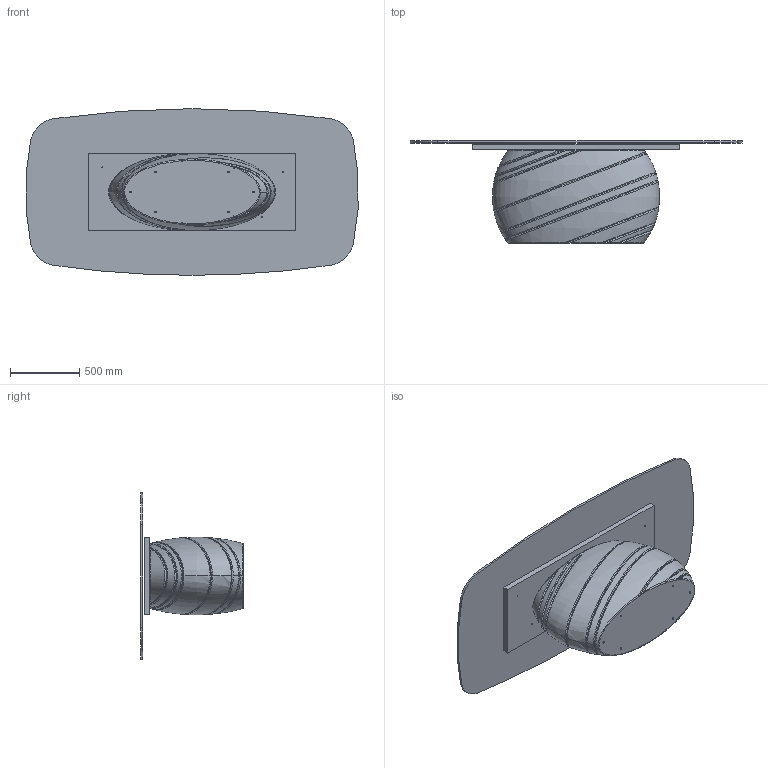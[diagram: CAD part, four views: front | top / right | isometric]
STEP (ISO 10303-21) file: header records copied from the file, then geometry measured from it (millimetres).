
FILE_DESCRIPTION (( 'STEP AP203' ), '1' );
FILE_NAME ('cri 240x120 sag.STEP', '2025-05-26T14:02:47', ( '' ), ( '' ), 'SwSTEP 2.0', 'SolidWorks 2022', '' );
FILE_SCHEMA (( 'CONFIG_CONTROL_DESIGN' ));
Length unit declared in the file: millimetre
Products named in the file (3): GIB000xxx-00-BASE GIOVE X 300; cri 240x120 sag; PIANI_modello 3D x web_Cristallo 240x120 sag
Assembly tree (2 placements, depth 2):
  cri 240x120 sag
    PIANI_modello 3D x web_Cristallo 240x120 sag
    GIB000xxx-00-BASE GIOVE X 300
Bounding box: 2391.62 x 737 x 1200 mm (x, y, z)
Volume: 389900086 mm3; surface area: 10017519.4 mm2
Topology: 3 solids, 3 shells, 161 faces, 396 edges, 256 vertices
Faces by surface type: cylinder 53, bspline 53, plane 31, cone 24
Entity records: 37425 total; most frequent: CARTESIAN_POINT 33641, ORIENTED_EDGE 792, DIRECTION 611, EDGE_CURVE 396, VERTEX_POINT 256, AXIS2_PLACEMENT_3D 255, EDGE_LOOP 196, FACE_OUTER_BOUND 161
